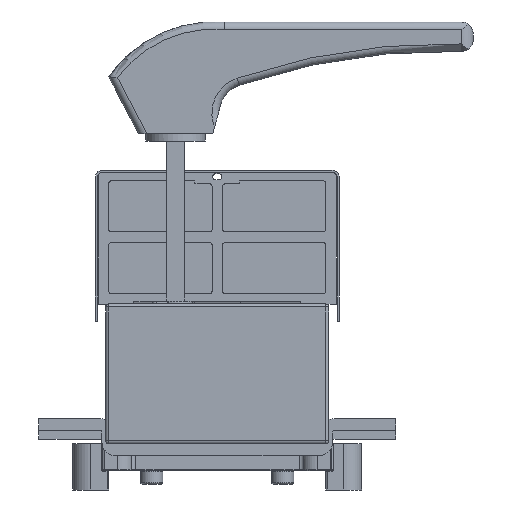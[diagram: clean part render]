
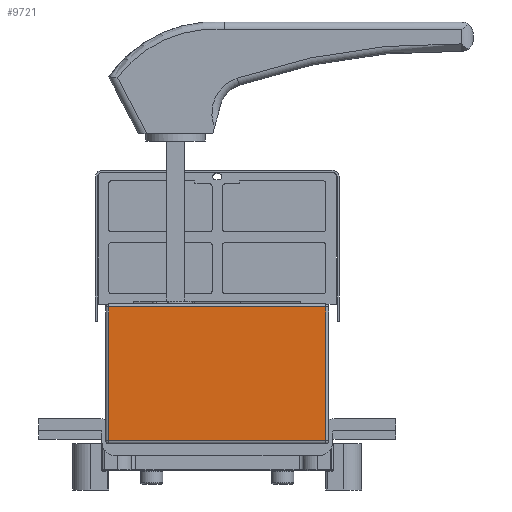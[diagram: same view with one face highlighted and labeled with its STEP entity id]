
A CAD part, left-side view. The second image highlights one B-rep face of the part: STEP entity #9721.
In plain terms, the highlighted planar face has unit normal (-1, 0, 0).
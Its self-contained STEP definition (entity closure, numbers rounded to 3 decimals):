
#2952=LINE('',#51642,#5756);
#2957=LINE('',#51663,#5761);
#2960=LINE('',#51686,#5764);
#2967=LINE('',#51696,#5771);
#5756=VECTOR('',#39739,1.);
#5761=VECTOR('',#39764,1.);
#5764=VECTOR('',#39793,1.);
#5771=VECTOR('',#39806,1.);
#6727=PLANE('',#31830);
#8139=FACE_OUTER_BOUND('',#12632,.T.);
#9721=ADVANCED_FACE('',(#8139),#6727,.F.);
#12632=EDGE_LOOP('',(#20168,#20169,#20170,#20171));
#20168=ORIENTED_EDGE('',*,*,#27829,.T.);
#20169=ORIENTED_EDGE('',*,*,#27811,.T.);
#20170=ORIENTED_EDGE('',*,*,#27822,.T.);
#20171=ORIENTED_EDGE('',*,*,#27800,.T.);
#23790=VERTEX_POINT('',#51628);
#23794=VERTEX_POINT('',#51639);
#23799=VERTEX_POINT('',#51656);
#23800=VERTEX_POINT('',#51660);
#27800=EDGE_CURVE('',#23794,#23790,#2952,.T.);
#27811=EDGE_CURVE('',#23800,#23799,#2957,.T.);
#27822=EDGE_CURVE('',#23799,#23794,#2960,.T.);
#27829=EDGE_CURVE('',#23790,#23800,#2967,.T.);
#31830=AXIS2_PLACEMENT_3D('',#51749,#39851,#39852);
#39739=DIRECTION('',(0.,1.,0.));
#39764=DIRECTION('',(0.,-1.,0.));
#39793=DIRECTION('',(0.,0.,1.));
#39806=DIRECTION('',(0.,0.,-1.));
#39851=DIRECTION('',(1.,0.,0.));
#39852=DIRECTION('',(0.,1.,0.));
#51628=CARTESIAN_POINT('',(-150.,73.,92.));
#51639=CARTESIAN_POINT('',(-150.,-73.,92.));
#51642=CARTESIAN_POINT('',(-150.,73.,92.));
#51656=CARTESIAN_POINT('',(-150.,-73.,2.));
#51660=CARTESIAN_POINT('',(-150.,73.,2.));
#51663=CARTESIAN_POINT('',(-150.,75.,2.));
#51686=CARTESIAN_POINT('',(-150.,-73.,94.));
#51696=CARTESIAN_POINT('',(-150.,73.,94.));
#51749=CARTESIAN_POINT('',(-150.,75.,94.));
